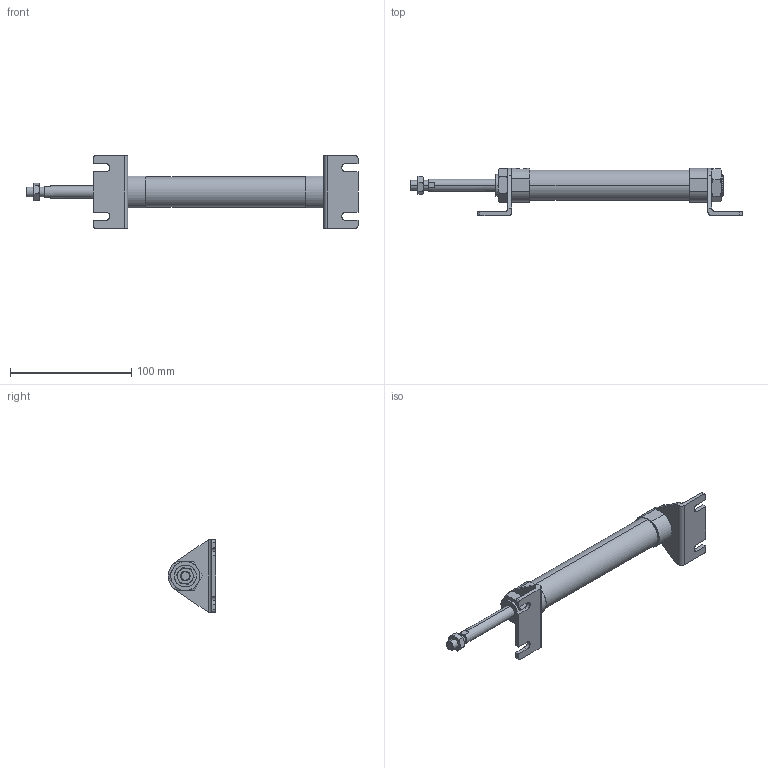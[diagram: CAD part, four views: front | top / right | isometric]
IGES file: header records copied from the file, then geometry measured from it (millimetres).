
Start section: SolidWorks IGES file using analytic representation for surfaces
Global section: file name: C:\Users\Toshiba\Desktop\J#0-20-50-L.IGS; native system: SolidWorks 2014; preprocessor: SolidWorks 2014; author: Toshiba; date: 160310.084307; units: millimetre
Bounding box: 274.2 x 39 x 60 mm (x, y, z)
Surface area: 34348.8 mm2 (no closed solid volume)
Topology: 0 solids, 0 shells, 165 faces, 2566 edges, 2566 vertices
Faces by surface type: bspline 109, revolution 56
